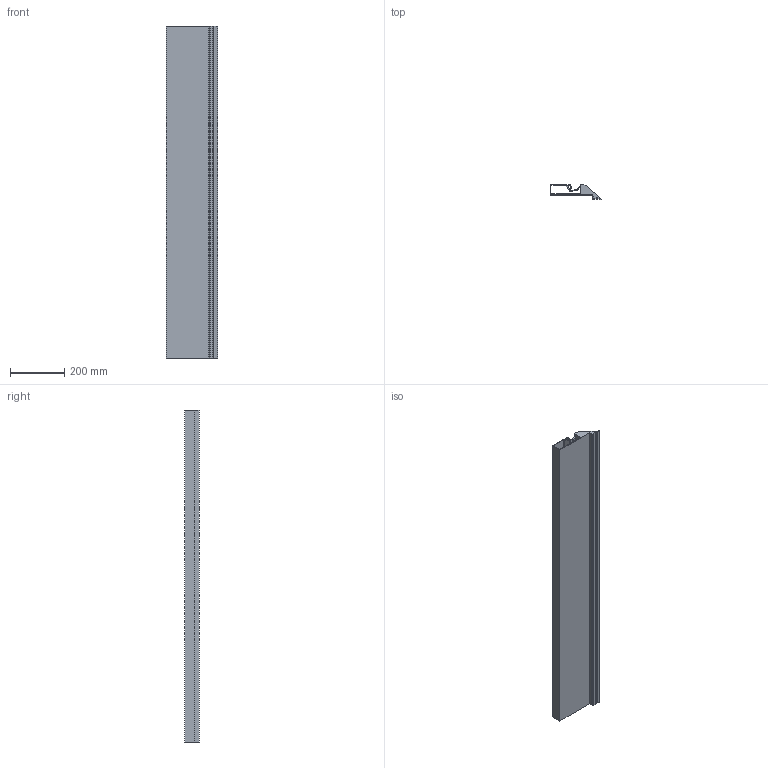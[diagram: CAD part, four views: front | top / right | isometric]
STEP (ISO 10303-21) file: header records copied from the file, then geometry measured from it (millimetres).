
FILE_DESCRIPTION (( 'STEP AP203' ), '1' );
FILE_NAME ('EC-Simplified for distribution.STEP', '2016-12-06T22:10:16', ( '' ), ( '' ), 'SwSTEP 2.0', 'SolidWorks 2016', '' );
FILE_SCHEMA (( 'CONFIG_CONTROL_DESIGN' ));
Length unit declared in the file: millimetre
Products named in the file (1): EC-Simplified for distribution
Bounding box: 188.57 x 54.94 x 1219.2 mm (x, y, z)
Volume: 2738311.5 mm3; surface area: 1053755.5 mm2
Topology: 1 solids, 1 shells, 56 faces, 162 edges, 108 vertices
Faces by surface type: plane 44, cylinder 12
Entity records: 1915 total; most frequent: CARTESIAN_POINT 327, ORIENTED_EDGE 324, DIRECTION 300, EDGE_CURVE 162, VECTOR 138, LINE 138, VERTEX_POINT 108, AXIS2_PLACEMENT_3D 81
